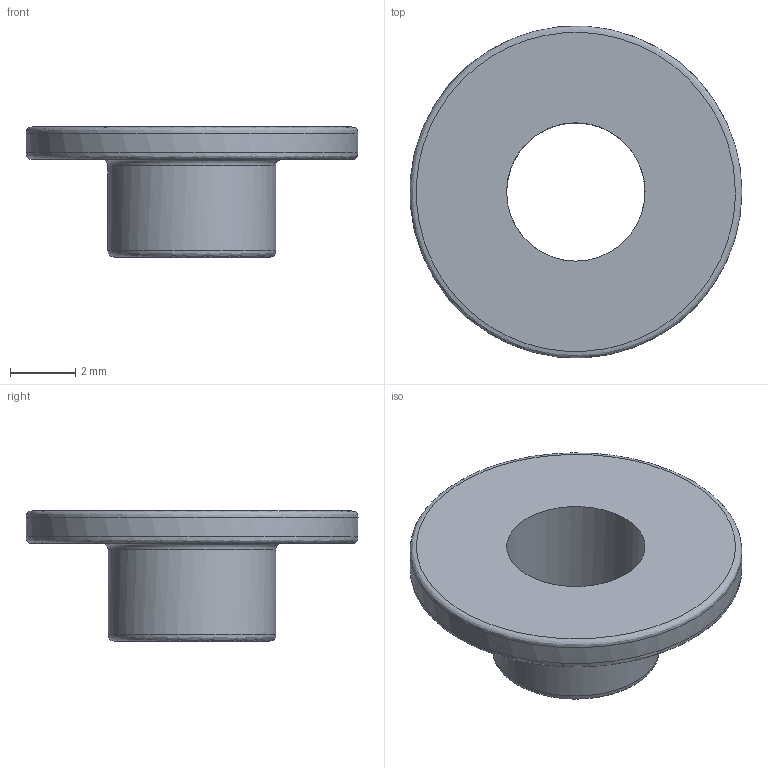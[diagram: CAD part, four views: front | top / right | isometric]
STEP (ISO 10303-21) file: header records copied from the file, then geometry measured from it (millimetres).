
FILE_DESCRIPTION(('STEP AP242 Edition 2','STEP AP242 Edition 2''CAx-IF Rec.Pracs.---Representation and Presentation of Product Manufacturing Information (PMI)---4.0---2014-10-13','STEP AP242 Edition 2''CAx-IF Rec.Pracs.---Representation and Presentation of Product Manufacturing Information (PMI)---4.0---2014-10-13''CAx-IF Rec.Pracs.---3D Tessellated Geometry---0.4---2014-09-14','STEP AP242 Edition 2''CAx-IF Rec.Pracs.---Representation and Presentation of Product Manufacturing Information (PMI)---4.0---2014-10-13''CAx-IF Rec.Pracs.---3D Tessellated Geometry---0.4---2014-09-14''2;1','STEP AP242 Edition 2''CAx-IF Rec.Pracs.---Representation and Presentation of Product Manufacturing Information (PMI)---4.0---2014-10-13''CAx-IF Rec.Pracs.---3D Tessellated Geometry---0.4---2014-09-14''2;1''CAx-IF Rec.Pracs.---User Defined Attributes---1.5---2016-08-15'),'2;1');
FILE_NAME('/vol/tmp/translate-2653161796517008982/Part Studio 1 - screwGasket.step','2026-03-10T09:28:21',(''),(''),'ST-DEVELOPER v20','ONSHAPE BY PTC INC, 1.211',' ');
FILE_SCHEMA(('AP242_MANAGED_MODEL_BASED_3D_ENGINEERING_MIM_LF { 1 0 10303 442 3 1 4 }'));
Length unit declared in the file: metre
Products named in the file (1): screwGasket
Bounding box: 10.19 x 10.2 x 4 mm (x, y, z)
Volume: 86.9 mm3; surface area: 260.8 mm2
Topology: 1 solids, 1 shells, 11 faces, 19 edges, 11 vertices
Faces by surface type: bspline 5, cylinder 3, plane 3
Full cylindrical faces by diameter (mm): 4.25 x1, 5.15 x1, 10.2 x1
Entity records: 654 total; most frequent: CARTESIAN_POINT 483, ORIENTED_EDGE 22, EDGE_LOOP 22, FACE_BOUND 22, DIRECTION 16, EDGE_CURVE 11, VERTEX_POINT 11, ADVANCED_FACE 11
